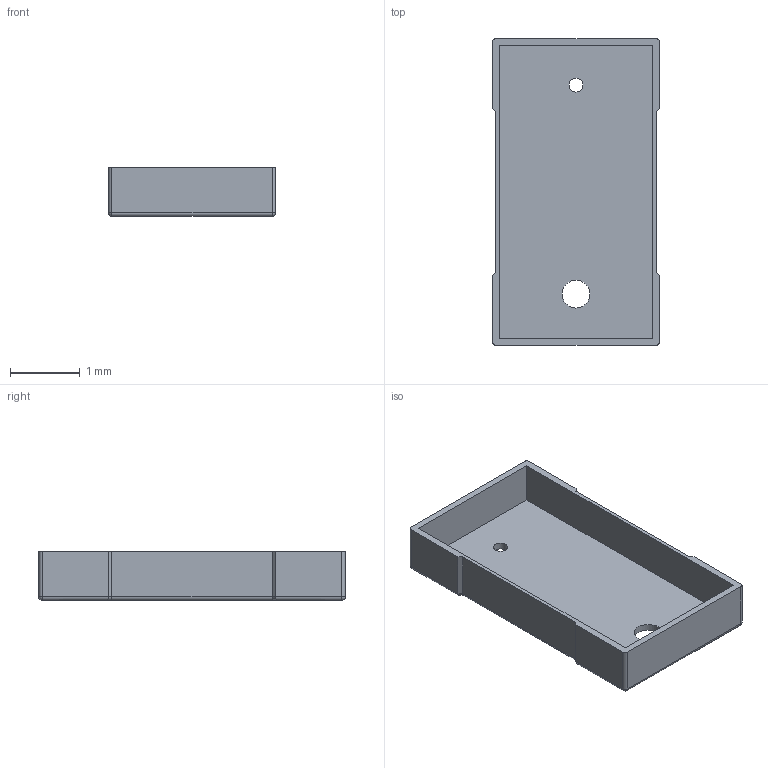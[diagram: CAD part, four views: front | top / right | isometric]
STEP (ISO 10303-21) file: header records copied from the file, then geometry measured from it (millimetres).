
FILE_DESCRIPTION(/* description */ ('STEP AP242 Edition 2','CAx-IF Rec.Pracs.---Representation and Presentation of Product Manufacturing Information (PMI)---4.0---2014-10-13','CAx-IF Rec.Pracs.---3D Tessellated Geometry---0.4---2014-09-14','2;1','CAx-IF Rec.Pracs.---User Defined Attributes---1.5---2016-08-15'),/* implementation_level */ '2;1');
FILE_NAME(/* name */ 'Drone Layout - Surface 370',/* time_stamp */ '2026-10-04T22:22:58Z',/* author */ (''),/* organization */ (''),/* preprocessor_version */ 'ST-DEVELOPER v20',/* originating_system */ 'ONSHAPE BY PTC INC, 1.221',/* authorisation */ ' ');
FILE_SCHEMA (('AP242_MANAGED_MODEL_BASED_3D_ENGINEERING_MIM_LF { 1 0 10303 442 3 1 4 }'));
Length unit declared in the file: metre
Products named in the file (1): top:1__Body1
Bounding box: 2.4 x 4.4 x 0.7 mm (x, y, z)
Volume: 1.7 mm3; surface area: 37.4 mm2
Topology: 1 solids, 1 shells, 41 faces, 94 edges, 56 vertices
Faces by surface type: plane 19, cylinder 18, sphere 4
Full cylindrical faces by diameter (mm): 0.2 x1, 0.4 x1
Entity records: 1157 total; most frequent: CARTESIAN_POINT 216, DIRECTION 190, ORIENTED_EDGE 188, EDGE_CURVE 94, LINE 66, VECTOR 66, AXIS2_PLACEMENT_3D 62, VERTEX_POINT 56
